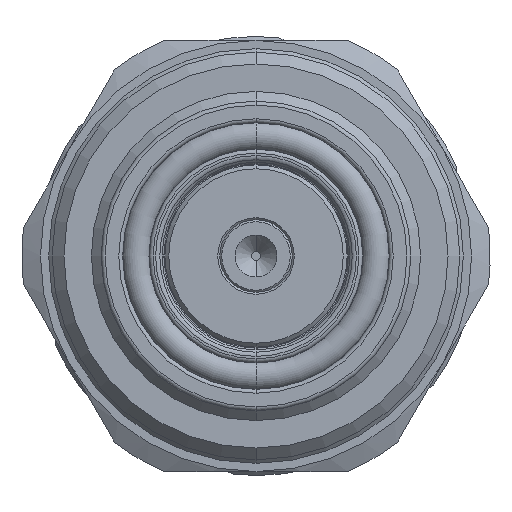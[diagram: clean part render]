
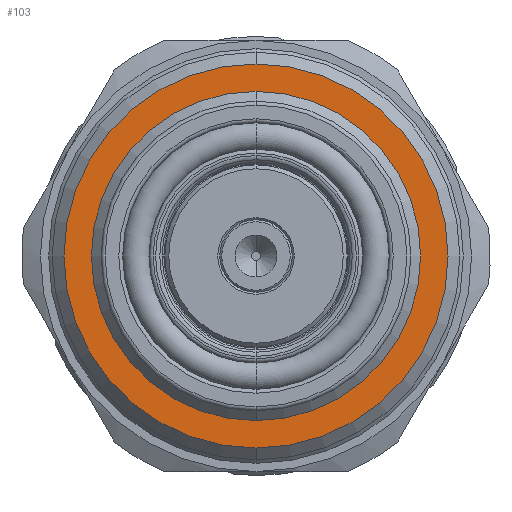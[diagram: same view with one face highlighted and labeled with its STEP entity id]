
A CAD part, left-side view. The second image highlights one B-rep face of the part: STEP entity #103.
In plain terms, the highlighted planar face has unit normal (-1, 0, 0).
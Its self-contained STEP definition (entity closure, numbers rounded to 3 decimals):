
#103 = ADVANCED_FACE ( 'NONE', ( #5878, #5936 ), #549, .F. ) ;
#549 = PLANE ( 'NONE',  #6854 ) ;
#551 = CARTESIAN_POINT ( 'NONE',  ( -2.883, 0., 0. ) ) ;
#573 = DIRECTION ( 'NONE',  ( 0., 0., -1. ) ) ;
#607 = DIRECTION ( 'NONE',  ( 1., 0., 0. ) ) ;
#1039 = CARTESIAN_POINT ( 'NONE',  ( -2.883, 0., -9.8 ) ) ;
#1047 = CARTESIAN_POINT ( 'NONE',  ( -2.883, 0., -8.4 ) ) ;
#1080 = CARTESIAN_POINT ( 'NONE',  ( -2.883, 0., 9.8 ) ) ;
#1089 = CARTESIAN_POINT ( 'NONE',  ( -2.883, 0., 8.4 ) ) ;
#2375 = DIRECTION ( 'NONE',  ( -1., 0., 0. ) ) ;
#2399 = CARTESIAN_POINT ( 'NONE',  ( -2.883, 0., 0. ) ) ;
#2400 = DIRECTION ( 'NONE',  ( 0., 0., 1. ) ) ;
#2547 = CARTESIAN_POINT ( 'NONE',  ( -2.883, 0., 0. ) ) ;
#2548 = DIRECTION ( 'NONE',  ( 0., 0., 1. ) ) ;
#2560 = DIRECTION ( 'NONE',  ( -1., 0., 0. ) ) ;
#2941 = DIRECTION ( 'NONE',  ( 0., 0., 1. ) ) ;
#2948 = DIRECTION ( 'NONE',  ( -1., 0., 0. ) ) ;
#2956 = DIRECTION ( 'NONE',  ( -1., 0., 0. ) ) ;
#2968 = DIRECTION ( 'NONE',  ( 0., 0., 1. ) ) ;
#2970 = CARTESIAN_POINT ( 'NONE',  ( -2.883, 0., 0. ) ) ;
#2971 = CARTESIAN_POINT ( 'NONE',  ( -2.883, 0., 0. ) ) ;
#3351 = ORIENTED_EDGE ( 'NONE', *, *, #4395, .F. ) ;
#3424 = ORIENTED_EDGE ( 'NONE', *, *, #4563, .F. ) ;
#3445 = ORIENTED_EDGE ( 'NONE', *, *, #4396, .T. ) ;
#3466 = ORIENTED_EDGE ( 'NONE', *, *, #4514, .T. ) ;
#3674 = VERTEX_POINT ( 'NONE', #1039 ) ;
#3712 = VERTEX_POINT ( 'NONE', #1047 ) ;
#3714 = VERTEX_POINT ( 'NONE', #1080 ) ;
#3719 = VERTEX_POINT ( 'NONE', #1089 ) ;
#4395 = EDGE_CURVE ( 'NONE', #3719, #3712, #6415, .T. ) ;
#4396 = EDGE_CURVE ( 'NONE', #3714, #3674, #6412, .T. ) ;
#4514 = EDGE_CURVE ( 'NONE', #3674, #3714, #6537, .T. ) ;
#4563 = EDGE_CURVE ( 'NONE', #3712, #3719, #6600, .T. ) ;
#4782 = EDGE_LOOP ( 'NONE', ( #3466, #3445 ) ) ;
#4818 = EDGE_LOOP ( 'NONE', ( #3424, #3351 ) ) ;
#5878 = FACE_BOUND ( 'NONE', #4818, .T. ) ;
#5936 = FACE_OUTER_BOUND ( 'NONE', #4782, .T. ) ;
#6412 = CIRCLE ( 'NONE', #7113, 9.8 ) ;
#6415 = CIRCLE ( 'NONE', #7105, 8.4 ) ;
#6537 = CIRCLE ( 'NONE', #7144, 9.8 ) ;
#6600 = CIRCLE ( 'NONE', #6724, 8.4 ) ;
#6724 = AXIS2_PLACEMENT_3D ( 'NONE', #2547, #2560, #2548 ) ;
#6854 = AXIS2_PLACEMENT_3D ( 'NONE', #551, #607, #573 ) ;
#7105 = AXIS2_PLACEMENT_3D ( 'NONE', #2970, #2948, #2968 ) ;
#7113 = AXIS2_PLACEMENT_3D ( 'NONE', #2971, #2956, #2941 ) ;
#7144 = AXIS2_PLACEMENT_3D ( 'NONE', #2399, #2375, #2400 ) ;
